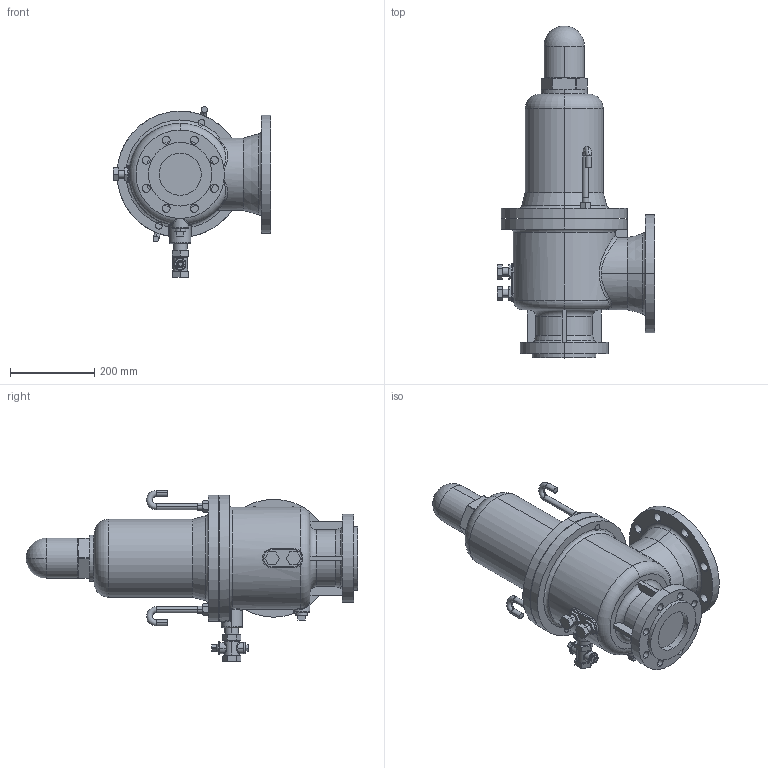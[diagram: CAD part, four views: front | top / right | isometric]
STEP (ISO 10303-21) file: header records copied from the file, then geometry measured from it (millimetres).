
FILE_DESCRIPTION (( 'STEP AP203' ), '1' );
FILE_NAME ('AF-4M 100A.STEP', '2024-08-01T06:27:08', ( '' ), ( '' ), 'SwSTEP 2.0', 'SolidWorks 2024', '' );
FILE_SCHEMA (( 'CONFIG_CONTROL_DESIGN' ));
Length unit declared in the file: millimetre
Products named in the file (8): ナット M16; AF-4 本体部P 100A; フックボルト 100A; 背圧絞り弁 100A; プラグ 20A; キャップ 100A; 止めボルト 100A; AF-4M 100A
Assembly tree (10 placements, depth 2):
  AF-4M 100A
    AF-4 本体部P 100A
    止めボルト 100A  x2
    背圧絞り弁 100A
    プラグ 20A
    フックボルト 100A  x2
    ナット M16  x2
    キャップ 100A
Bounding box: 374 x 788.5 x 405.65 mm (x, y, z)
Volume: 25288259.7 mm3; surface area: 968875.8 mm2
Topology: 10 solids, 10 shells, 416 faces, 1020 edges, 624 vertices
Faces by surface type: plane 146, cylinder 125, cone 55, torus 43, bspline 43, sphere 4
Entity records: 16292 total; most frequent: CARTESIAN_POINT 6915, ORIENTED_EDGE 1768, DIRECTION 1756, EDGE_CURVE 884, AXIS2_PLACEMENT_3D 725, VERTEX_POINT 557, EDGE_LOOP 437, CIRCLE 385
